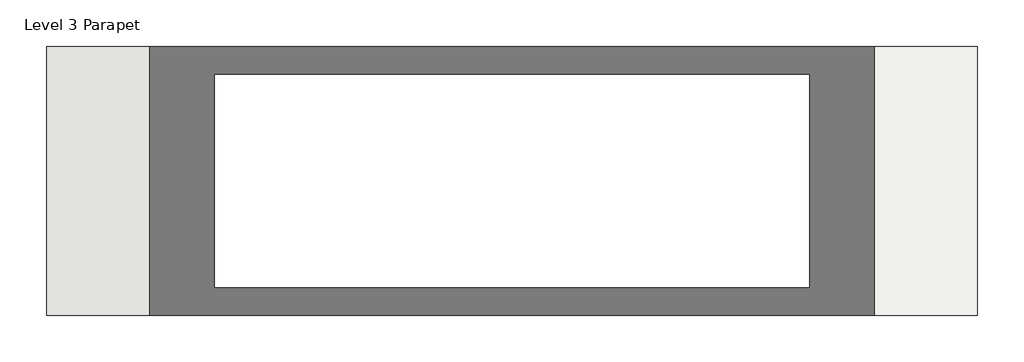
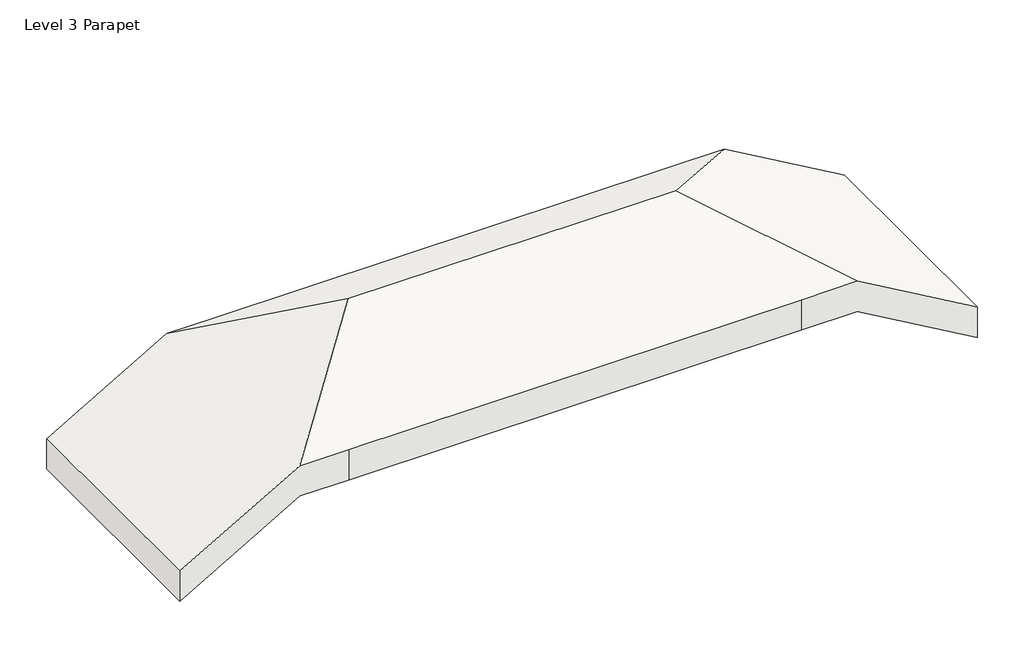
# One storey: 1 roof.
"""IFC4 building model written with IfcOpenShell, lengths in millimetres."""

from ifc_helpers import new_model, si_unit, origin, place, context, project, spatial, faceted_brep, element, save

model = new_model("IFC4")

# Units and contexts
model_context = context("Model", 3, world=origin())
ifc_project = project(units=[si_unit("LENGTHUNIT", "METRE", prefix="MILLI")], contexts=[model_context])

# Site, building, storey
site = spatial("IfcSite", under=ifc_project)
building = spatial("IfcBuilding", under=site)
storey = spatial("IfcBuildingStorey", under=building, Name="Level 3 Parapet", Elevation=6000.0)

# Roof
placement = place(None, origin())
element("IfcRoof", 1, ObjectType="Generic - 400mm", at=placement, inside=storey, context=model_context, shape_type="Brep", body=[
    faceted_brep([(15280.0016487, 23738.3653338, 6000.0), (17012.0524562, 23738.3653338, 7000.0), (18676.0524562, 22074.3653338, 7960.7108479), (17012.0524562, 20410.3653338, 7000.0), (15280.0016487, 20410.3653338, 6000.0), (17725.68502, 23738.3653338, 7000.0), (24252.5406851, 23738.3653338, 7000.0), (25064.7971756, 23738.3653338, 7000.0), (23400.7971756, 22074.3653338, 7960.7108479), (17725.68502, 20410.3653338, 7000.0), (25064.7971756, 20410.3653338, 7000.0), (24252.5406851, 20410.3653338, 7000.0), (26796.8479832, 20410.3653338, 6000.0), (26796.8479832, 23738.3653338, 6000.0), (15280.0016487, 23738.3653338, 6461.8802154), (15280.0016487, 20410.3653338, 6461.8802154), (17012.0524562, 20410.3653338, 7461.8802154), (18676.0524562, 22074.3653338, 8422.5910633), (17012.0524562, 23738.3653338, 7461.8802154), (17725.68502, 23738.3653338, 7461.8802154), (23400.7971756, 22074.3653338, 8422.5910633), (25064.7971756, 23738.3653338, 7461.8802154), (24252.5406851, 23738.3653338, 7461.8802154), (17725.68502, 20410.3653338, 7461.8802154), (24252.5406851, 20410.3653338, 7461.8802154), (25064.7971756, 20410.3653338, 7461.8802154), (26796.8479832, 20410.3653338, 6461.8802154), (26796.8479832, 23738.3653338, 6461.8802154)], [[[0, 1, 2, 3, 4]], [[1, 5, 6, 7, 8, 2]], [[9, 3, 2, 8, 10, 11]], [[12, 10, 8, 7, 13]], [[14, 15, 16, 17, 18]], [[19, 18, 17, 20, 21, 22]], [[23, 24, 25, 20, 17, 16]], [[26, 27, 21, 20, 25]], [[4, 15, 14, 0]], [[11, 24, 23, 9]], [[13, 27, 26, 12]], [[5, 19, 22, 6]], [[14, 18, 19, 5, 1, 0]], [[23, 16, 15, 4, 3, 9]], [[22, 21, 27, 13, 7, 6]], [[26, 25, 24, 11, 10, 12]]]),
])

save(model, "model.ifc")
